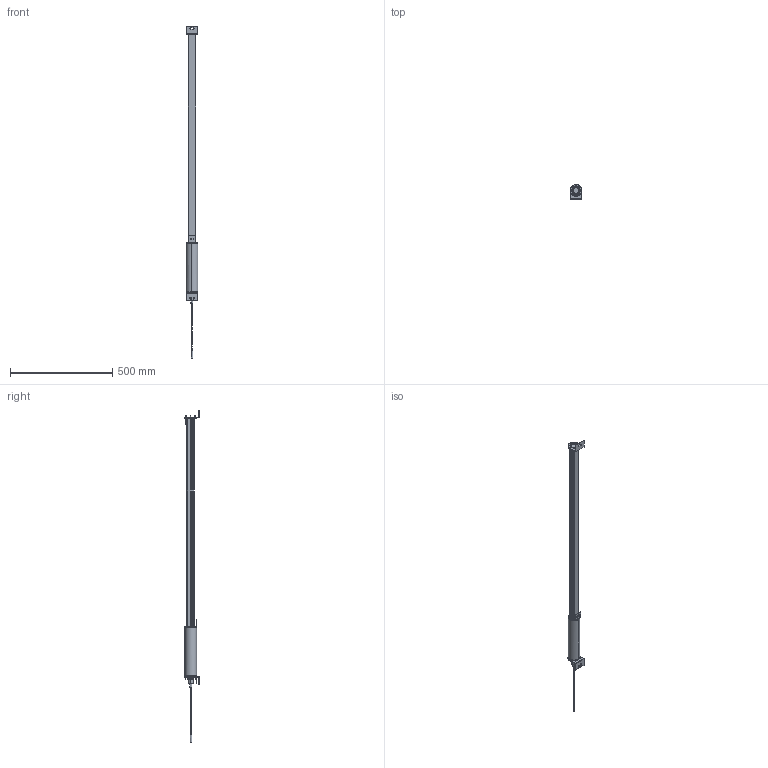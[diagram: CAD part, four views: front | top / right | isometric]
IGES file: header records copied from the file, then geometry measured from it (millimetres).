
Global section: file name: C:\ACADFILES\MG_PYLONS\CUSTOMER_FILES\MG-48-PYLON_3D_SMB.igs; native system: AutoCAD-18.2s (LMS Tech) (Microsoft Windows NT Version 6.1 (x86)); preprocessor: Autodesk IGES Translator Mechanical Desktop 2011 (Feb 18 2011) from Autodesk, Inc.; date: 20140328.131307; units: inch
Bounding box: 57.29 x 69.85 x 1625.97 mm (x, y, z)
Surface area: 636447.3 mm2 (no closed solid volume)
Topology: 0 solids, 0 shells, 1800 faces, 9329 edges, 9504 vertices
Faces by surface type: bspline 1800
